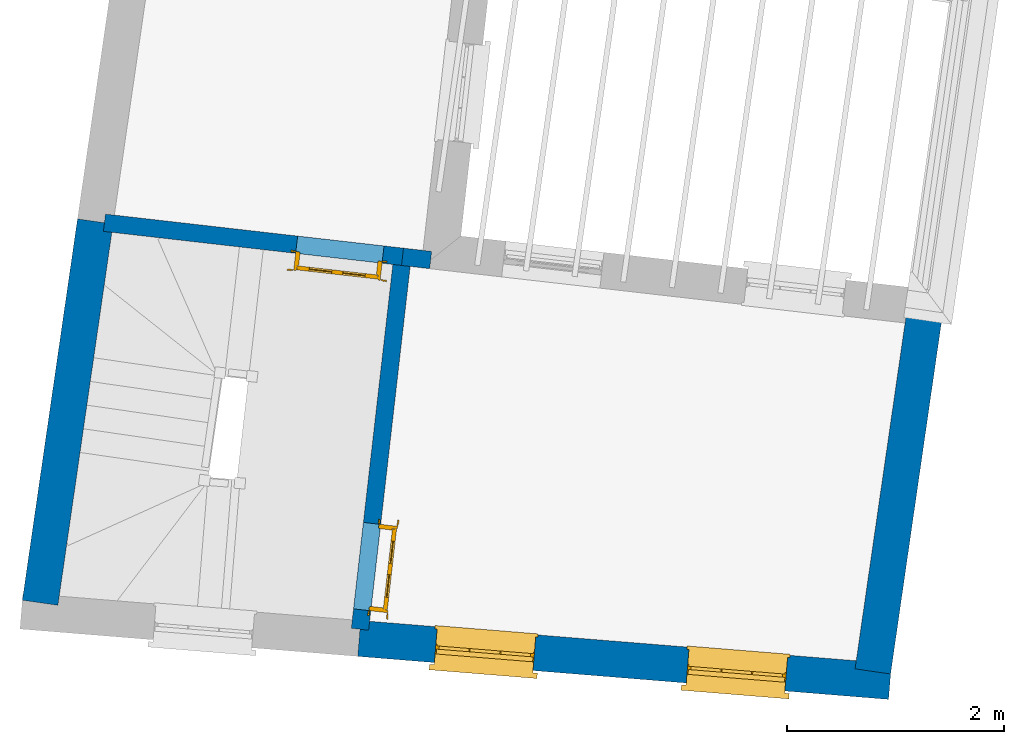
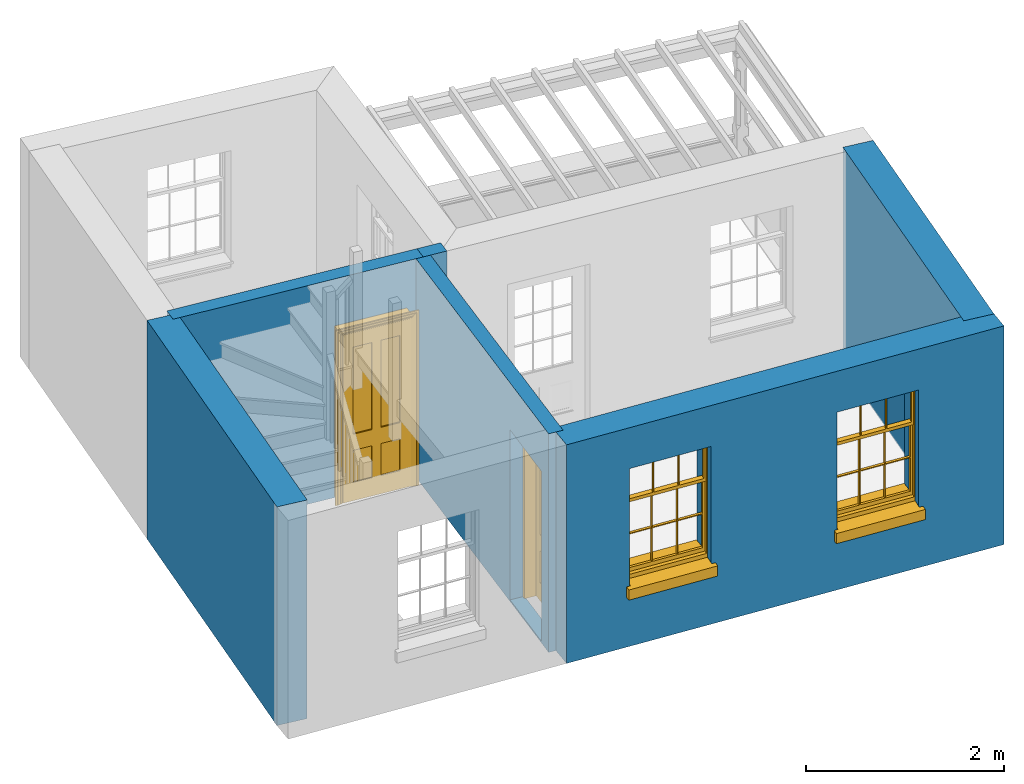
# One storey, part 2 of 5: 6 walls, 2 doors, 2 windows, 4 openings.
"""IFC4 building model written with IfcOpenShell, lengths in metres."""

from ifc_helpers import new_model, si_unit, frame, origin, origin_with_axes, place, context, subcontext, project, spatial, polyline, outline, extrude, faceted_brep, source, transform, mapped, material, layer, layer_set, layer_usage, type_object, type_shapes, element, fill, save


model = new_model("IFC4")

# Units and contexts
model_context = context("Model", 3, world=origin_with_axes())
body_context = subcontext(model_context, "Body", "Model", "MODEL_VIEW")
ifc_project = project(units=[si_unit("PLANEANGLEUNIT", "RADIAN"), si_unit("MASSUNIT", "GRAM", prefix="KILO"), si_unit("FORCEUNIT", "NEWTON", prefix="KILO"), si_unit("LENGTHUNIT", "METRE"), si_unit("AREAUNIT", "SQUARE_METRE"), si_unit("VOLUMEUNIT", "CUBIC_METRE")], contexts=[model_context, model_context])

# Sites, building, storey
site_1_placement = place(None, origin_with_axes())
site_1 = spatial("IfcSite", under=ifc_project, at=site_1_placement, Name="Tamar")
site_2_placement = place(site_1_placement, origin_with_axes())
site_2 = spatial("IfcSite", under=site_1, at=site_2_placement, Name="Site plot-31", CompositionType="ELEMENT")
building_placement = place(None, origin_with_axes())
building = spatial("IfcBuilding", under=site_2, at=building_placement, Name="Building plot-31", CompositionType="ELEMENT")
storey_placement = place(None, frame((0.0, 0.0, 28.65), z_axis=(0.0, 0.0, 1.0), x_axis=(1.0, 0.0, 0.0)))
storey = spatial("IfcBuildingStorey", under=building, at=storey_placement, Name="plot-31 1", CompositionType="ELEMENT", Elevation=28.65)

# Wall, openings, windows
ifc_material_1 = material(Name="Masonry")
ifc_layer_1 = layer(ifc_material_1, 0.33, ventilated=False)
ifc_layer_set_1 = layer_set([ifc_layer_1], Name="exterior_0.08_0.25")
ifc_layer_usage_1 = layer_usage(ifc_layer_set_1, "AXIS2", "POSITIVE", -0.25)
wall_type_1 = type_object("IfcWallType", Name="exterior_0.08_0.25", PredefinedType="SOLIDWALL", material=ifc_layer_set_1)
wall_1_placement = place(storey_placement, frame((295.316844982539, 257.653933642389, 0.0), z_axis=(0.0, 0.0, 1.0), x_axis=(0.99673152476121, -0.0807853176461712, 0.0)))
wall_1 = element("IfcWall", 1, at=wall_1_placement, inside=storey, type_object=wall_type_1, material=ifc_layer_usage_1, Name="exterior", context=body_context, shape_type="SweptSolid", body=[
    extrude(outline(polyline([(-6.79854810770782e-15, 0.080000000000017), (-4.88957373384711e-14, -0.24999999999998), (4.8981688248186, -0.249999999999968), (4.89816882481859, 0.0800000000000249), (-6.79854810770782e-15, 0.080000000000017)])), origin_with_axes(), (0.0, 0.0, 1.0), 2.7),
])
opening_1_placement = place(wall_1_placement, frame((0.707042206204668, 0.0, 0.75)))
opening_1 = element("IfcOpeningElement", 2, at=opening_1_placement, cuts=wall_1, Name="My Opening", ObjectType="Opening", context=body_context, shape_type="SweptSolid", body=[
    extrude(outline(polyline([(0.0, -0.269999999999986), (0.909999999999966, -0.270000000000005), (0.909999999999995, 1.09999999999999), (2.87547763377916e-14, 1.10000000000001), (0.0, -0.269999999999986)])), origin_with_axes(), (0.0, 0.0, 1.0), 1.445),
])
opening_2_placement = place(wall_1_placement, frame((3.03112661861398, 0.0, 0.75)))
opening_2 = element("IfcOpeningElement", 3, at=opening_2_placement, cuts=wall_1, Name="My Opening", ObjectType="Opening", context=body_context, shape_type="SweptSolid", body=[
    extrude(outline(polyline([(0.0, -0.269999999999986), (0.909999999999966, -0.270000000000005), (0.909999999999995, 1.09999999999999), (2.8421709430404e-14, 1.10000000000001), (0.0, -0.269999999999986)])), origin_with_axes(), (0.0, 0.0, 1.0), 1.445),
])
window_type = type_object("IfcWindowType", Name="sash_shorter", PartitioningType="DOUBLE_PANEL_HORIZONTAL", PredefinedType="NOTDEFINED")
shared_shape_1 = source(origin(), body_context, "Body", "Brep", [
    faceted_brep([(0.876875, 0.145, 0.999097), (0.876875, 0.145, 1.411875), (0.9, 0.145, 1.435), (0.033125, 0.145, 1.411875), (0.033125, 0.145, 0.999097), (0.01, 0.145, 1.435), (0.033125, 0.115, 1.411875), (0.01, 0.115, 1.435), (0.033125, 0.115, 0.999097), (0.876875, 0.115, 1.411875), (0.876875, 0.115, 0.999097), (0.9, 0.115, 1.435), (0.033125, 0.145, 0.960972), (0.01, 0.145, 0.960972), (0.033125, 0.145, 0.548195), (0.876875, 0.145, 0.960972), (0.876875, 0.145, 0.548195), (0.9, 0.145, 0.960972), (0.876875, 0.145, 0.538195), (0.876875, 0.145, 0.125417), (0.9, 0.145, 0.077167), (0.033125, 0.145, 0.125417), (0.033125, 0.145, 0.538195), (0.01, 0.145, 0.077167), (0.9, 0.115, 0.960972), (0.01, 0.115, 0.960972), (-0.0425, 0.0, 0.01), (-0.0425, -0.05, 0.001667), (0.0, 0.0, 0.01), (0.9525, 0.0, 0.01), (0.91, 0.0, 0.01), (0.9525, -0.05, 0.001667), (-0.02, 0.33, 0.077167), (0.0, 0.33, 0.077167), (-0.02, 0.36, 0.077167), (0.0, 0.19, 0.077167), (0.01, 0.19, 0.077167), (0.91, 0.19, 0.077167), (0.91, 0.33, 0.077167), (0.9, 0.19, 0.077167), (0.93, 0.33, 0.077167), (0.93, 0.36, 0.077167), (0.01, 0.145, 0.999097), (0.01, 0.175, 0.999097), (0.9, 0.145, 0.999097), (0.9, 0.175, 0.999097), (0.876875, 0.175, 0.125417), (0.876875, 0.175, 0.538195), (0.9, 0.175, 0.077167), (0.876875, 0.175, 0.548195), (0.876875, 0.175, 0.960972), (0.033125, 0.175, 0.125417), (0.01, 0.175, 0.077167), (0.033125, 0.175, 0.538195), (0.033125, 0.175, 0.960972), (0.033125, 0.175, 0.548195), (-0.02, 0.33, 0.052167), (-0.02, 0.36, 0.052167), (0.93, 0.36, 0.052167), (0.93, 0.33, 0.052167), (0.91, 0.33, 0.052167), (0.0, 0.33, 0.052167), (0.91, 0.1, 0.026667), (0.0, 0.1, 0.026667), (-0.0425, -0.05, -0.123333), (0.9525, -0.05, -0.123333), (-0.0425, 0.0, -0.123333), (0.9525, 0.0, -0.123333), (0.01, 0.19, 1.435), (0.9, 0.19, 1.435), (0.0, 0.19, 1.445), (0.91, 0.19, 1.445), (0.01, 0.1, 0.077167), (0.9, 0.1, 0.077167), (0.592292, 0.145, 0.125417), (0.592292, 0.175, 0.125417), (0.317708, 0.175, 0.125417), (0.317708, 0.145, 0.125417), (0.592292, 0.145, 0.548195), (0.317708, 0.145, 0.548195), (0.317708, 0.145, 0.538195), (0.592292, 0.145, 0.538195), (0.592292, 0.175, 0.548195), (0.317708, 0.175, 0.548195), (0.602292, 0.175, 0.548195), (0.602292, 0.145, 0.548195), (0.317708, 0.175, 0.538195), (0.307708, 0.175, 0.125417), (0.307708, 0.175, 0.538195), (0.602292, 0.175, 0.538195), (0.602292, 0.175, 0.125417), (0.592292, 0.175, 0.538195), (0.307708, 0.175, 0.548195), (0.317708, 0.175, 0.960972), (0.307708, 0.175, 0.960972), (0.602292, 0.175, 0.960972), (0.592292, 0.175, 0.960972), (0.307708, 0.145, 0.538195), (0.307708, 0.145, 0.125417), (0.307708, 0.145, 0.548195), (0.307708, 0.145, 0.960972), (0.592292, 0.145, 0.960972), (0.317708, 0.145, 0.960972), (0.602292, 0.145, 0.960972), (0.602292, 0.145, 0.538195), (0.602292, 0.145, 0.125417), (0.317708, 0.115, 1.411875), (0.307708, 0.115, 1.411875), (0.307708, 0.115, 0.999097), (0.317708, 0.115, 0.999097), (0.602292, 0.115, 1.411875), (0.592292, 0.115, 1.411875), (0.592292, 0.115, 0.999097), (0.602292, 0.115, 0.999097), (0.317708, 0.145, 0.999097), (0.307708, 0.145, 0.999097), (0.307708, 0.145, 1.411875), (0.317708, 0.145, 1.411875), (0.602292, 0.145, 0.999097), (0.592292, 0.145, 0.999097), (0.592292, 0.145, 1.411875), (0.602292, 0.145, 1.411875), (0.91, 0.1, 1.445), (0.9, 0.1, 1.435), (0.01, 0.1, 1.435), (0.0, 0.1, 1.445), (0.91, 0.0, 0.0), (0.0, 0.0, 0.0), (0.91, 0.33, 0.0), (0.0, 0.33, 0.0)], [[[0, 1, 2]], [[3, 4, 5]], [[6, 7, 8]], [[9, 10, 11]], [[12, 13, 14]], [[15, 16, 17]], [[18, 19, 20]], [[21, 22, 23]], [[24, 15, 17]], [[13, 12, 25]], [[26, 27, 28]], [[29, 30, 31]], [[32, 33, 34]], [[35, 36, 33]], [[37, 38, 39]], [[40, 41, 38]], [[42, 4, 43]], [[44, 45, 0]], [[46, 47, 48]], [[49, 50, 45]], [[51, 52, 53]], [[54, 55, 43]], [[38, 33, 36, 39]], [[41, 34, 33, 38]], [[56, 32, 34, 57]], [[57, 34, 41, 58]], [[58, 41, 40, 59]], [[57, 58, 60, 61]], [[52, 48, 39, 36]], [[62, 63, 28, 30]], [[27, 31, 30, 28]], [[27, 64, 65, 31]], [[66, 67, 65, 64]], [[2, 5, 68, 69]], [[68, 70, 71, 69]], [[20, 23, 72, 73]], [[73, 72, 63, 62]], [[74, 75, 76, 77]], [[78, 79, 80, 81]], [[78, 82, 83, 79]], [[16, 49, 84, 85]], [[86, 76, 87, 88]], [[89, 90, 75, 91]], [[92, 88, 53, 55]], [[82, 91, 86, 83]], [[93, 83, 92, 94]], [[95, 84, 82, 96]], [[89, 84, 49, 47]], [[97, 88, 87, 98]], [[22, 53, 88, 97]], [[81, 91, 75, 74]], [[80, 86, 91, 81]], [[77, 76, 86, 80]], [[99, 92, 55, 14]], [[100, 94, 92, 99]], [[101, 96, 82, 78]], [[79, 83, 93, 102]], [[85, 84, 95, 103]], [[104, 89, 47, 18]], [[105, 90, 89, 104]], [[104, 18, 16, 85]], [[80, 97, 98, 77]], [[104, 81, 74, 105]], [[103, 101, 78, 85]], [[99, 14, 22, 97]], [[102, 100, 99, 79]], [[106, 107, 108, 109]], [[110, 111, 112, 113]], [[114, 115, 116, 117]], [[118, 119, 120, 121]], [[107, 116, 115, 108]], [[111, 120, 119, 112]], [[109, 114, 117, 106]], [[113, 118, 121, 110]], [[85, 78, 81, 104]], [[84, 89, 91, 82]], [[83, 86, 88, 92]], [[79, 99, 97, 80]], [[109, 112, 119, 114]], [[102, 93, 96, 101]], [[106, 117, 120, 111]], [[98, 87, 51, 21]], [[6, 3, 116, 107]], [[110, 121, 1, 9]], [[19, 46, 90, 105]], [[26, 66, 64, 27]], [[29, 31, 65, 67]], [[25, 24, 112, 109]], [[11, 7, 106, 111]], [[75, 48, 52, 76]], [[43, 45, 96, 93]], [[45, 43, 114, 119]], [[5, 2, 120, 117]], [[24, 25, 102, 101]], [[42, 5, 4]], [[2, 44, 0]], [[49, 45, 48, 47]], [[52, 43, 55, 53]], [[14, 13, 23, 22]], [[20, 17, 16, 18]], [[24, 11, 10]], [[25, 8, 7]], [[8, 4, 3, 6]], [[9, 1, 0, 10]], [[15, 50, 49, 16]], [[18, 47, 46, 19]], [[21, 51, 53, 22]], [[14, 55, 54, 12]], [[44, 2, 69, 45]], [[68, 5, 42, 43]], [[36, 35, 70, 68]], [[39, 69, 71, 37]], [[62, 122, 123, 73]], [[63, 72, 124, 125]], [[8, 108, 115, 4]], [[113, 10, 0, 118]], [[94, 100, 12, 54]], [[17, 20, 73, 24]], [[72, 23, 13, 25]], [[52, 36, 68, 43]], [[69, 39, 48, 45]], [[11, 24, 73, 123]], [[7, 124, 72, 25]], [[23, 77, 98]], [[98, 21, 23]], [[105, 74, 20]], [[20, 19, 105]], [[20, 74, 77, 23]], [[113, 112, 24]], [[24, 10, 113]], [[25, 109, 108]], [[108, 8, 25]], [[110, 9, 11]], [[11, 111, 110]], [[7, 6, 107]], [[107, 106, 7]], [[5, 117, 116]], [[116, 3, 5]], [[121, 120, 2]], [[2, 1, 121]], [[11, 123, 124, 7]], [[122, 125, 124, 123]], [[43, 93, 94]], [[94, 54, 43]], [[96, 45, 95]], [[50, 95, 45]], [[15, 103, 95, 50]], [[48, 75, 90]], [[90, 46, 48]], [[87, 76, 52]], [[52, 51, 87]], [[103, 15, 24]], [[24, 101, 103]], [[100, 102, 25]], [[25, 12, 100]], [[115, 114, 43]], [[43, 4, 115]], [[118, 0, 45]], [[45, 119, 118]], [[71, 70, 125, 122]], [[70, 35, 63, 125]], [[122, 62, 37, 71]], [[126, 67, 66, 127]], [[60, 58, 59]], [[38, 60, 59, 40]], [[61, 56, 57]], [[32, 56, 61, 33]], [[61, 60, 128, 129]], [[62, 60, 38, 37]], [[126, 128, 60, 62]], [[33, 61, 63, 35]], [[61, 129, 127, 63]], [[128, 126, 127, 129]], [[28, 127, 66, 26]], [[63, 127, 28]], [[29, 67, 126, 30]], [[30, 126, 62]]]),
])
type_shapes(window_type, [shared_shape_1])
window_1_placement = place(storey_placement, frame((295.999764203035, 257.327697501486, 0.75), z_axis=(0.0, 0.0, 1.0), x_axis=(0.907025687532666, -0.0735146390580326, 0.0)))
window_1 = element("IfcWindow", 4, at=window_1_placement, inside=storey, type_object=window_type, Name="bedroom outside window", OverallHeight=1.445, OverallWidth=0.91, context=body_context, shape_type="MappedRepresentation", body=[
    mapped(shared_shape_1, transform((0.0, 0.0, 0.0), scale=1.0)),
])
fill(opening_1, window_1)
window_2_placement = place(storey_placement, frame((298.31625240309, 257.139945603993, 0.75), z_axis=(0.0, 0.0, 1.0), x_axis=(0.907025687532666, -0.0735146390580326, 0.0)))
window_2 = element("IfcWindow", 5, at=window_2_placement, inside=storey, type_object=window_type, Name="bedroom outside window", OverallHeight=1.445, OverallWidth=0.91, context=body_context, shape_type="MappedRepresentation", body=[
    mapped(shared_shape_1, transform((0.0, 0.0, 0.0), scale=1.0)),
])
fill(opening_2, window_2)

# Walls
ifc_material_2 = material(Name="Masonry")
ifc_layer_2 = layer(ifc_material_2, 0.33, ventilated=False)
ifc_layer_set_2 = layer_set([ifc_layer_2], Name="party_0.08_0.25")
ifc_layer_usage_2 = layer_usage(ifc_layer_set_2, "AXIS2", "POSITIVE", -0.25)
wall_type_2 = type_object("IfcWallType", Name="party_0.08_0.25", PredefinedType="SOLIDWALL", material=ifc_layer_set_2)
wall_2_placement = place(storey_placement, frame((299.949821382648, 257.278429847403, 0.0), z_axis=(0.0, 0.0, 1.0), x_axis=(0.143119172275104, 0.989705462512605, 0.0)))
element("IfcWall", 6, at=wall_2_placement, inside=storey, type_object=wall_type_2, material=ifc_layer_usage_2, Name="party", context=body_context, shape_type="SweptSolid", body=[
    extrude(outline(polyline([(2.42074388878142e-15, 0.0800000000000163), (-2.2744263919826e-14, -0.249999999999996), (3.29674323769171, -0.249999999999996), (3.29674323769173, 0.080000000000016), (2.42074388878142e-15, 0.0800000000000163)])), origin_with_axes(), (0.0, 0.0, 1.0), 2.7),
])
wall_3_placement = place(storey_placement, frame((292.966784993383, 261.392838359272, 0.0), z_axis=(0.0, 0.0, 1.0), x_axis=(-0.143119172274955, -0.989705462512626, 0.0)))
element("IfcWall", 7, at=wall_3_placement, inside=storey, type_object=wall_type_2, material=ifc_layer_usage_2, Name="party", context=body_context, shape_type="SweptSolid", body=[
    extrude(outline(polyline([(1.44803760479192e-14, 0.0800000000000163), (-6.03808244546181e-14, -0.249999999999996), (3.54380607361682, -0.249999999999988), (3.54380607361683, 0.0800000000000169), (1.44803760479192e-14, 0.0800000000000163)])), origin_with_axes(), (0.0, 0.0, 1.0), 2.7),
])
ifc_material_3 = material(Name="Masonry")
ifc_layer_3 = layer(ifc_material_3, 0.16, ventilated=False)
ifc_layer_set_3 = layer_set([ifc_layer_3], Name="interior_0.08_0.08")
ifc_layer_usage_3 = layer_usage(ifc_layer_set_3, "AXIS2", "POSITIVE", -0.08)
wall_type_3 = type_object("IfcWallType", Name="interior_0.08_0.08", PredefinedType="SOLIDWALL", material=ifc_layer_set_3)
wall_4_placement = place(storey_placement, frame((295.967464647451, 261.050056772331, 0.0), z_axis=(0.0, 0.0, 1.0), x_axis=(-0.993538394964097, 0.113496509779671, 0.0)))
element("IfcWall", 8, at=wall_4_placement, inside=storey, type_object=wall_type_3, material=ifc_layer_usage_3, Name="interior", context=body_context, shape_type="SweptSolid", body=[
    extrude(outline(polyline([(9.41958983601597e-15, 0.0799999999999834), (-9.40979266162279e-15, -0.0799999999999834), (0.260967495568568, -0.0799999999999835), (0.260967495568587, 0.0799999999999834), (9.41958983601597e-15, 0.0799999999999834)])), origin_with_axes(), (0.0, 0.0, 1.0), 2.7),
])

# Wall, opening, door
wall_5_placement = place(storey_placement, frame((295.708183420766, 261.079675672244, 0.0), z_axis=(0.0, 0.0, 1.0), x_axis=(-0.113496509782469, -0.993538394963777, 0.0)))
wall_5 = element("IfcWall", 9, at=wall_5_placement, inside=storey, type_object=wall_type_3, material=ifc_layer_usage_3, Name="interior", context=body_context, shape_type="SweptSolid", body=[
    extrude(outline(polyline([(9.93290253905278e-15, 0.0800000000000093), (-9.97822685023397e-15, -0.0800000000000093), (3.44802178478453, -0.0800000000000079), (3.44802178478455, 0.0800000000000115), (9.93290253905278e-15, 0.0800000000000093)])), origin_with_axes(), (0.0, 0.0, 1.0), 2.7),
])
opening_3_placement = place(wall_5_placement, frame((2.4680217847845, 0.0, 0.0199999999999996)))
opening_3 = element("IfcOpeningElement", 10, at=opening_3_placement, cuts=wall_5, Name="My Opening", ObjectType="Opening", context=body_context, shape_type="SweptSolid", body=[
    extrude(outline(polyline([(0.0, -0.100000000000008), (0.800000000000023, -0.100000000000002), (0.80000000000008, 1.09999999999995), (5.55111512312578e-14, 1.09999999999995), (0.0, -0.100000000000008)])), origin_with_axes(), (0.0, 0.0, 1.0), 2.1),
])
door_type = type_object("IfcDoorType", Name="door_inside", OperationType="SINGLE_SWING_LEFT", PredefinedType="NOTDEFINED")
shared_shape_2 = source(origin(), body_context, "Body", "Brep", [
    faceted_brep([(0.773, 0.33, 1.895), (0.66, 0.33, 1.895), (0.66, 0.33, 2.073), (0.773, 0.33, 2.073), (0.773, 0.33, 0.82), (0.66, 0.33, 0.82), (0.45, 0.33, 1.895), (0.45, 0.33, 2.073), (0.773, 0.33, 0.62), (0.66, 0.33, 0.62), (0.66, 0.315, 0.82), (0.66, 0.315, 1.895), (0.45, 0.315, 1.895), (0.35, 0.33, 1.895), (0.35, 0.33, 2.073), (0.773, 0.33, 0.225), (0.66, 0.33, 0.225), (0.45, 0.33, 0.62), (0.45, 0.33, 0.82), (0.45, 0.315, 0.82), (0.35, 0.33, 0.82), (0.14, 0.33, 2.073), (0.14, 0.33, 1.895), (0.773, 0.33, 0.0), (0.66, 0.33, 0.0), (0.66, 0.315, 0.225), (0.66, 0.315, 0.62), (0.45, 0.315, 0.62), (0.35, 0.33, 0.62), (0.35, 0.315, 0.82), (0.35, 0.315, 1.895), (0.14, 0.315, 1.895), (0.027, 0.33, 2.073), (0.027, 0.33, 1.895), (0.773, 0.292, 0.0), (0.66, 0.292, 0.0), (0.45, 0.33, 0.0), (0.45, 0.33, 0.225), (0.45, 0.315, 0.225), (0.35, 0.33, 0.225), (0.14, 0.33, 0.82), (0.14, 0.33, 0.62), (0.14, 0.315, 0.82), (0.027, 0.33, 0.82), (0.773, 0.292, 0.225), (0.66, 0.292, 0.225), (0.45, 0.292, 0.0), (0.35, 0.33, 0.0), (0.35, 0.315, 0.225), (0.35, 0.315, 0.62), (0.14, 0.315, 0.62), (0.027, 0.33, 0.62), (0.773, 0.292, 0.62), (0.66, 0.292, 0.62), (0.45, 0.292, 0.225), (0.35, 0.292, 0.0), (0.14, 0.33, 0.225), (0.14, 0.33, 0.0), (0.14, 0.315, 0.225), (0.027, 0.33, 0.225), (0.773, 0.292, 0.82), (0.66, 0.292, 0.82), (0.66, 0.307, 0.62), (0.66, 0.307, 0.225), (0.45, 0.307, 0.225), (0.35, 0.292, 0.225), (0.14, 0.292, 0.0), (0.027, 0.33, 0.0), (0.773, 0.292, 1.895), (0.66, 0.292, 1.895), (0.45, 0.292, 0.62), (0.45, 0.292, 0.82), (0.45, 0.307, 0.62), (0.35, 0.292, 0.62), (0.14, 0.292, 0.225), (0.027, 0.292, 0.0), (0.773, 0.292, 2.073), (0.66, 0.292, 2.073), (0.66, 0.307, 1.895), (0.66, 0.307, 0.82), (0.45, 0.307, 0.82), (0.35, 0.292, 0.82), (0.35, 0.307, 0.62), (0.35, 0.307, 0.225), (0.14, 0.307, 0.225), (0.027, 0.292, 0.225), (0.45, 0.292, 1.895), (0.45, 0.292, 2.073), (0.45, 0.307, 1.895), (0.35, 0.292, 1.895), (0.14, 0.292, 0.82), (0.14, 0.292, 0.62), (0.14, 0.307, 0.62), (0.027, 0.292, 0.62), (0.35, 0.292, 2.073), (0.35, 0.307, 1.895), (0.35, 0.307, 0.82), (0.14, 0.307, 0.82), (0.027, 0.292, 0.82), (0.14, 0.292, 2.073), (0.14, 0.292, 1.895), (0.14, 0.307, 1.895), (0.027, 0.292, 1.895), (0.027, 0.292, 2.073), (0.02, 0.335, 0.0), (0.005, 0.34, 0.0), (0.005, 0.34, 2.095), (0.02, 0.335, 2.08), (0.02, 0.33, 0.0), (0.0, 0.335, 0.0), (0.0, 0.335, 2.1), (0.795, 0.34, 2.095), (0.78, 0.335, 2.08), (0.02, 0.33, 2.08), (0.0, 0.33, 0.0), (-0.032, 0.345, 0.0), (-0.032, 0.345, 2.132), (0.8, 0.335, 2.1), (0.795, 0.34, 0.0), (0.78, 0.335, 0.0), (0.78, 0.33, 2.08), (0.04, 0.29, 0.0), (0.025, 0.29, 0.0), (0.025, 0.29, 2.075), (0.04, 0.29, 2.06), (-0.04, 0.34, 0.0), (-0.04, 0.34, 2.14), (0.832, 0.345, 2.132), (0.8, 0.335, 0.0), (0.78, 0.33, 0.0), (0.8, 0.33, 0.0), (0.86, 0.33, 0.0), (0.86, 0.33, 2.16), (0.8, 0.33, 2.1), (-0.06, 0.33, 2.16), (0.0, 0.33, 2.1), (-0.06, 0.33, 0.0), (-0.04, 0.345, 0.0), (-0.04, 0.345, 2.14), (0.84, 0.34, 2.14), (0.832, 0.345, 0.0), (0.84, 0.34, 0.0), (0.86, 0.345, 0.0), (0.86, 0.345, 2.16), (-0.06, 0.345, 2.16), (-0.06, 0.345, 0.0), (0.84, 0.345, 0.0), (0.84, 0.345, 2.14), (-0.025, 0.155, 0.0), (-0.025, 0.16, 0.0), (-0.025, 0.16, 2.125), (-0.025, 0.155, 2.125), (-0.017, 0.155, 0.0), (-0.017, 0.155, 2.117), (0.825, 0.16, 2.125), (0.825, 0.155, 2.125), (0.825, 0.155, 0.0), (0.845, 0.155, 0.0), (-0.045, 0.155, 2.145), (-0.045, 0.155, 0.0), (0.845, 0.155, 2.145), (0.015, 0.165, 0.0), (0.015, 0.165, 2.085), (0.817, 0.155, 2.117), (0.825, 0.16, 0.0), (0.845, 0.17, 0.0), (0.845, 0.17, 2.145), (-0.045, 0.17, 2.145), (-0.045, 0.17, 0.0), (0.02, 0.16, 0.0), (0.02, 0.16, 2.08), (0.785, 0.165, 2.085), (0.817, 0.155, 0.0), (0.8, 0.17, 0.0), (0.8, 0.17, 2.1), (0.0, 0.17, 2.1), (0.0, 0.17, 0.0), (0.035, 0.165, 0.0), (0.035, 0.165, 2.065), (0.78, 0.16, 2.08), (0.785, 0.165, 0.0), (0.775, 0.29, 2.075), (0.76, 0.29, 2.06), (0.035, 0.17, 2.065), (0.035, 0.17, 0.0), (0.765, 0.165, 2.065), (0.78, 0.16, 0.0), (0.765, 0.17, 0.0), (0.765, 0.17, 2.065), (0.765, 0.165, 0.0), (0.04, 0.17, 2.06), (0.04, 0.17, 0.0), (0.76, 0.17, 2.06), (0.76, 0.17, 0.0), (0.76, 0.29, 0.0), (0.775, 0.29, 0.0), (0.025, 0.33, 0.0), (0.025, 0.33, 2.075), (0.775, 0.33, 0.0), (0.775, 0.33, 2.075)], [[[0, 1, 2, 3]], [[1, 0, 4, 5]], [[1, 6, 7, 2]], [[8, 9, 5, 4]], [[1, 5, 10, 11]], [[6, 1, 11, 12]], [[6, 13, 14, 7]], [[15, 16, 9, 8]], [[9, 17, 18, 5]], [[5, 18, 19, 10]], [[10, 19, 12, 11]], [[18, 6, 12, 19]], [[18, 20, 13, 6]], [[21, 14, 13, 22]], [[23, 24, 16, 15]], [[9, 16, 25, 26]], [[17, 9, 26, 27]], [[17, 28, 20, 18]], [[13, 20, 29, 30]], [[22, 13, 30, 31]], [[32, 21, 22, 33]], [[34, 35, 24, 23]], [[24, 36, 37, 16]], [[16, 37, 38, 25]], [[25, 38, 27, 26]], [[37, 17, 27, 38]], [[37, 39, 28, 17]], [[40, 20, 28, 41]], [[20, 40, 42, 29]], [[31, 30, 29, 42]], [[40, 22, 31, 42]], [[33, 22, 40, 43]], [[35, 34, 44, 45]], [[35, 46, 36, 24]], [[36, 47, 39, 37]], [[28, 39, 48, 49]], [[41, 28, 49, 50]], [[43, 40, 41, 51]], [[45, 44, 52, 53]], [[46, 35, 45, 54]], [[46, 55, 47, 36]], [[56, 39, 47, 57]], [[39, 56, 58, 48]], [[50, 49, 48, 58]], [[56, 41, 50, 58]], [[51, 41, 56, 59]], [[53, 52, 60, 61]], [[45, 53, 62, 63]], [[54, 45, 63, 64]], [[55, 46, 54, 65]], [[55, 66, 57, 47]], [[59, 56, 57, 67]], [[61, 60, 68, 69]], [[70, 53, 61, 71]], [[53, 70, 72, 62]], [[72, 64, 63, 62]], [[70, 54, 64, 72]], [[65, 54, 70, 73]], [[65, 74, 66, 55]], [[67, 57, 66, 75]], [[69, 68, 76, 77]], [[61, 69, 78, 79]], [[71, 61, 79, 80]], [[73, 70, 71, 81]], [[65, 73, 82, 83]], [[74, 65, 83, 84]], [[74, 85, 75, 66]], [[86, 69, 77, 87]], [[69, 86, 88, 78]], [[88, 80, 79, 78]], [[86, 71, 80, 88]], [[81, 71, 86, 89]], [[73, 81, 90, 91]], [[73, 91, 92, 82]], [[83, 82, 92, 84]], [[91, 74, 84, 92]], [[91, 93, 85, 74]], [[89, 86, 87, 94]], [[81, 89, 95, 96]], [[90, 81, 96, 97]], [[90, 98, 93, 91]], [[94, 99, 100, 89]], [[89, 100, 101, 95]], [[101, 97, 96, 95]], [[100, 90, 97, 101]], [[100, 102, 98, 90]], [[99, 103, 102, 100]], [[32, 103, 99, 21]], [[102, 103, 32, 33]], [[98, 102, 33, 43]], [[21, 99, 94, 14]], [[94, 87, 7, 14]], [[7, 87, 77, 2]], [[76, 3, 2, 77]], [[43, 51, 93, 98]], [[51, 59, 85, 93]], [[67, 75, 85, 59]], [[34, 23, 15, 44]], [[44, 15, 8, 52]], [[52, 8, 4, 60]], [[0, 68, 60, 4]], [[0, 3, 76, 68]], [[104, 105, 106, 107]], [[104, 108, 109, 105]], [[105, 109, 110, 106]], [[107, 106, 111, 112]], [[107, 113, 108, 104]], [[114, 109, 108]], [[109, 115, 116, 110]], [[106, 110, 117, 111]], [[112, 111, 118, 119]], [[113, 107, 112, 120]], [[121, 122, 123, 124]], [[115, 109, 114, 125]], [[115, 125, 126, 116]], [[110, 116, 127, 117]], [[111, 117, 128, 118]], [[118, 128, 129, 119]], [[120, 112, 119, 129]], [[130, 129, 128]], [[130, 131, 132, 133]], [[133, 132, 134, 135]], [[135, 134, 136, 114]], [[136, 125, 114]], [[125, 137, 138, 126]], [[116, 126, 139, 127]], [[117, 127, 140, 128]], [[141, 130, 128, 140]], [[131, 130, 141]], [[131, 142, 143, 132]], [[132, 143, 144, 134]], [[134, 144, 145, 136]], [[137, 125, 136, 145]], [[143, 142, 146]], [[143, 146, 147]], [[137, 145, 144]], [[143, 147, 138]], [[138, 137, 144]], [[143, 138, 144]], [[126, 138, 147, 139]], [[127, 139, 141, 140]], [[142, 131, 141, 146]], [[139, 147, 146, 141]], [[148, 149, 150, 151]], [[149, 152, 153, 150]], [[151, 150, 154, 155]], [[155, 156, 157]], [[158, 159, 148]], [[158, 148, 151]], [[155, 157, 160]], [[158, 151, 155]], [[155, 160, 158]], [[152, 161, 162, 153]], [[150, 153, 163, 154]], [[155, 154, 164, 156]], [[156, 164, 165, 157]], [[157, 165, 166, 160]], [[160, 166, 167, 158]], [[158, 167, 168, 159]], [[161, 169, 170, 162]], [[153, 162, 171, 163]], [[154, 163, 172, 164]], [[165, 164, 173]], [[165, 173, 174, 166]], [[166, 174, 175, 167]], [[167, 175, 176, 168]], [[169, 177, 178, 170]], [[162, 170, 179, 171]], [[163, 171, 180, 172]], [[172, 180, 173, 164]], [[124, 123, 181, 182]], [[183, 178, 177, 184]], [[170, 178, 185, 179]], [[171, 179, 186, 180]], [[187, 173, 180]], [[185, 188, 187, 189]], [[188, 185, 178, 183]], [[179, 185, 189, 186]], [[189, 187, 180, 186]], [[190, 183, 184, 191]], [[192, 188, 183, 190]], [[191, 184, 122, 121]], [[124, 190, 191, 121]], [[193, 187, 188, 192]], [[182, 192, 190, 124]], [[184, 176, 122]], [[194, 195, 187, 193]], [[192, 182, 194, 193]], [[161, 176, 184]], [[114, 108, 122, 176]], [[173, 187, 195]], [[152, 149, 176, 161]], [[169, 161, 184, 177]], [[196, 122, 108]], [[176, 175, 135, 114]], [[173, 195, 129, 130]], [[176, 149, 168]], [[123, 122, 196, 197]], [[196, 108, 113, 197]], [[175, 174, 133, 135]], [[198, 129, 195]], [[133, 174, 173, 130]], [[159, 168, 149, 148]], [[181, 123, 197, 199]], [[197, 113, 120, 199]], [[199, 120, 129, 198]], [[195, 181, 199, 198]], [[195, 194, 182, 181]]]),
])
type_shapes(door_type, [shared_shape_2])
door_1_placement = place(storey_placement, frame((295.328717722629, 258.638950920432, 0.0199999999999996), z_axis=(0.0, 0.0, 1.0), x_axis=(-0.0907972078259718, -0.794830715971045, 0.0)))
door_1 = element("IfcDoor", 11, at=door_1_placement, inside=storey, type_object=door_type, Name="bedroom inside door", OverallHeight=2.1, OverallWidth=0.8, context=body_context, shape_type="MappedRepresentation", body=[
    mapped(shared_shape_2, transform((0.0, 0.0, 0.0), scale=1.0)),
])
fill(opening_3, door_1)

wall_6_placement = place(storey_placement, frame((295.708183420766, 261.079675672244, 0.0), z_axis=(0.0, 0.0, 1.0), x_axis=(-0.993538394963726, 0.113496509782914, 0.0)))
wall_6 = element("IfcWall", 12, at=wall_6_placement, inside=storey, type_object=wall_type_3, material=ifc_layer_usage_3, Name="interior", context=body_context, shape_type="SweptSolid", body=[
    extrude(outline(polyline([(-2.575227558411e-14, 0.0800000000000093), (2.57975998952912e-14, -0.0800000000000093), (2.75922746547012, -0.0800000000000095), (2.75922746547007, 0.0800000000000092), (-2.575227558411e-14, 0.0800000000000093)])), origin_with_axes(), (0.0, 0.0, 1.0), 2.7),
])
opening_4_placement = place(wall_6_placement, frame((0.180000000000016, 0.0, 0.0199999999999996)))
opening_4 = element("IfcOpeningElement", 13, at=opening_4_placement, cuts=wall_6, Name="My Opening", ObjectType="Opening", context=body_context, shape_type="SweptSolid", body=[
    extrude(outline(polyline([(0.0, -0.100000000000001), (0.800000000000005, -0.0999999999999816), (0.799999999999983, 1.09999999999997), (-2.2509771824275e-14, 1.09999999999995), (0.0, -0.100000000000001)])), origin_with_axes(), (0.0, 0.0, 1.0), 2.1),
])
door_2_placement = place(storey_placement, frame((295.540696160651, 261.199458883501, 0.0199999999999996), z_axis=(0.0, 0.0, 1.0), x_axis=(-0.794830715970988, 0.0907972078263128, 0.0)))
door_2 = element("IfcDoor", 14, at=door_2_placement, inside=storey, type_object=door_type, Name="toilet inside door", OverallHeight=2.1, OverallWidth=0.8, context=body_context, shape_type="MappedRepresentation", body=[
    mapped(shared_shape_2, transform((0.0, 0.0, 0.0), scale=1.0)),
])
fill(opening_4, door_2)

save(model, "model.ifc")
